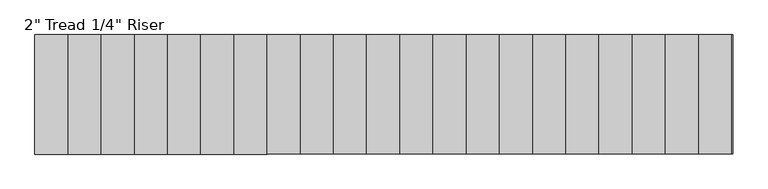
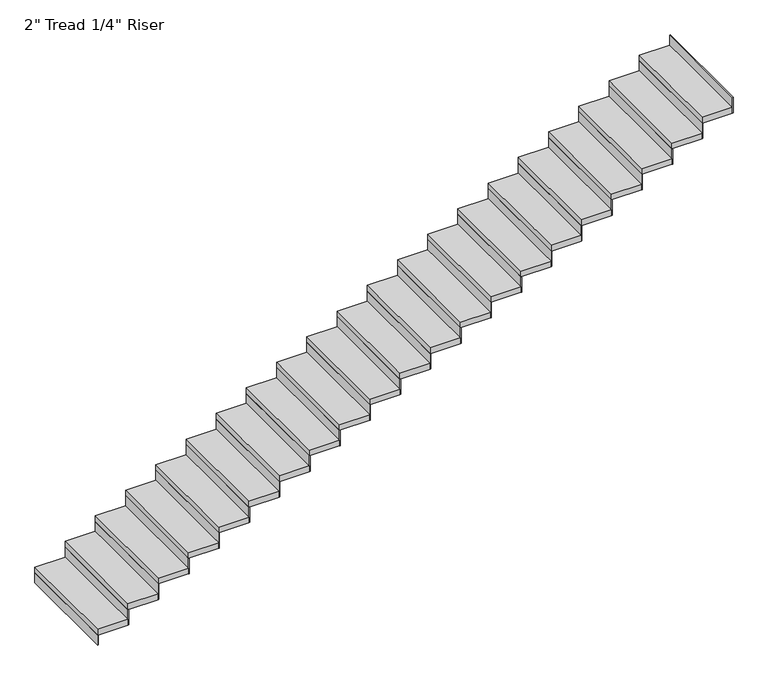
"""IFC4 building model written with IfcOpenShell, lengths in millimetres: stair flight geometry."""

from ifc_helpers import new_model, si_unit, frame, origin, origin_with_axes, place, context, project, spatial, polyline, outline, extrude, source, transform, mapped, element, save


def stair_flight_ce59e505(model_context):
    return source(origin(), model_context, "Body", "SweptSolid", [
        extrude(outline(polyline([(29973.8286682, 6728.764969), (29967.4786682, 6728.764969), (29967.4786682, 7643.164969), (29973.8286682, 7643.164969), (29973.8286682, 6728.764969)])), origin_with_axes(), (0.0, 0.0, 1.0), 87.7454545),
        extrude(outline(polyline([(30221.4786682, 7643.164969), (30221.4786682, 6728.764969), (29967.4786682, 6728.764969), (29967.4786682, 7643.164969), (30221.4786682, 7643.164969)])), frame((0.0, 0.0, 87.7454545), z_axis=(0.0, 0.0, 1.0), x_axis=(1.0, 0.0, 0.0)), (0.0, 0.0, 1.0), 50.8),
        extrude(outline(polyline([(30227.8286682, 6728.764969), (30221.4786682, 6728.764969), (30221.4786682, 7643.164969), (30227.8286682, 7643.164969), (30227.8286682, 6728.764969)])), frame((0.0, 0.0, 87.7454545), z_axis=(0.0, 0.0, 1.0), x_axis=(1.0, 0.0, 0.0)), (0.0, 0.0, 1.0), 138.5454545),
        extrude(outline(polyline([(30475.4786682, 7643.164969), (30475.4786682, 6728.764969), (30221.4786682, 6728.764969), (30221.4786682, 7643.164969), (30475.4786682, 7643.164969)])), frame((0.0, 0.0, 226.2909091), z_axis=(0.0, 0.0, 1.0), x_axis=(1.0, 0.0, 0.0)), (0.0, 0.0, 1.0), 50.8),
        extrude(outline(polyline([(30481.8286682, 6728.764969), (30475.4786682, 6728.764969), (30475.4786682, 7643.164969), (30481.8286682, 7643.164969), (30481.8286682, 6728.764969)])), frame((0.0, 0.0, 226.2909091), z_axis=(0.0, 0.0, 1.0), x_axis=(1.0, 0.0, 0.0)), (0.0, 0.0, 1.0), 138.5454545),
        extrude(outline(polyline([(30729.4786682, 7643.164969), (30729.4786682, 6728.764969), (30475.4786682, 6728.764969), (30475.4786682, 7643.164969), (30729.4786682, 7643.164969)])), frame((0.0, 0.0, 364.8363636), z_axis=(0.0, 0.0, 1.0), x_axis=(1.0, 0.0, 0.0)), (0.0, 0.0, 1.0), 50.8),
        extrude(outline(polyline([(30735.8286682, 6728.764969), (30729.4786682, 6728.764969), (30729.4786682, 7643.164969), (30735.8286682, 7643.164969), (30735.8286682, 6728.764969)])), frame((0.0, 0.0, 364.8363636), z_axis=(0.0, 0.0, 1.0), x_axis=(1.0, 0.0, 0.0)), (0.0, 0.0, 1.0), 138.5454545),
        extrude(outline(polyline([(30983.4786682, 7643.164969), (30983.4786682, 6728.764969), (30729.4786682, 6728.764969), (30729.4786682, 7643.164969), (30983.4786682, 7643.164969)])), frame((0.0, 0.0, 503.3818182), z_axis=(0.0, 0.0, 1.0), x_axis=(1.0, 0.0, 0.0)), (0.0, 0.0, 1.0), 50.8),
        extrude(outline(polyline([(30989.8286682, 6728.764969), (30983.4786682, 6728.764969), (30983.4786682, 7643.164969), (30989.8286682, 7643.164969), (30989.8286682, 6728.764969)])), frame((0.0, 0.0, 503.3818182), z_axis=(0.0, 0.0, 1.0), x_axis=(1.0, 0.0, 0.0)), (0.0, 0.0, 1.0), 138.5454545),
        extrude(outline(polyline([(31237.4786682, 7643.164969), (31237.4786682, 6728.764969), (30983.4786682, 6728.764969), (30983.4786682, 7643.164969), (31237.4786682, 7643.164969)])), frame((0.0, 0.0, 641.9272727), z_axis=(0.0, 0.0, 1.0), x_axis=(1.0, 0.0, 0.0)), (0.0, 0.0, 1.0), 50.8),
        extrude(outline(polyline([(31243.8286682, 6728.764969), (31237.4786682, 6728.764969), (31237.4786682, 7643.164969), (31243.8286682, 7643.164969), (31243.8286682, 6728.764969)])), frame((0.0, 0.0, 641.9272727), z_axis=(0.0, 0.0, 1.0), x_axis=(1.0, 0.0, 0.0)), (0.0, 0.0, 1.0), 138.5454545),
        extrude(outline(polyline([(31491.4786682, 7643.164969), (31491.4786682, 6728.764969), (31237.4786682, 6728.764969), (31237.4786682, 7643.164969), (31491.4786682, 7643.164969)])), frame((0.0, 0.0, 780.4727273), z_axis=(0.0, 0.0, 1.0), x_axis=(1.0, 0.0, 0.0)), (0.0, 0.0, 1.0), 50.8),
        extrude(outline(polyline([(31497.8286682, 6728.764969), (31491.4786682, 6728.764969), (31491.4786682, 7643.164969), (31497.8286682, 7643.164969), (31497.8286682, 6728.764969)])), frame((0.0, 0.0, 780.4727273), z_axis=(0.0, 0.0, 1.0), x_axis=(1.0, 0.0, 0.0)), (0.0, 0.0, 1.0), 138.5454545),
        extrude(outline(polyline([(31745.4786682, 7643.164969), (31745.4786682, 6728.764969), (31491.4786682, 6728.764969), (31491.4786682, 7643.164969), (31745.4786682, 7643.164969)])), frame((0.0, 0.0, 919.0181818), z_axis=(0.0, 0.0, 1.0), x_axis=(1.0, 0.0, 0.0)), (0.0, 0.0, 1.0), 50.8),
        extrude(outline(polyline([(31751.8286682, 6728.764969), (31745.4786682, 6728.764969), (31745.4786682, 7643.164969), (31751.8286682, 7643.164969), (31751.8286682, 6728.764969)])), frame((0.0, 0.0, 919.0181818), z_axis=(0.0, 0.0, 1.0), x_axis=(1.0, 0.0, 0.0)), (0.0, 0.0, 1.0), 138.5454545),
        extrude(outline(polyline([(31999.4786682, 7643.164969), (31999.4786682, 6728.764969), (31745.4786682, 6728.764969), (31745.4786682, 7643.164969), (31999.4786682, 7643.164969)])), frame((0.0, 0.0, 1057.5636364), z_axis=(0.0, 0.0, 1.0), x_axis=(1.0, 0.0, 0.0)), (0.0, 0.0, 1.0), 50.8),
        extrude(outline(polyline([(32005.8286682, 6728.764969), (31999.4786682, 6728.764969), (31999.4786682, 7643.164969), (32005.8286682, 7643.164969), (32005.8286682, 6728.764969)])), frame((0.0, 0.0, 1057.5636364), z_axis=(0.0, 0.0, 1.0), x_axis=(1.0, 0.0, 0.0)), (0.0, 0.0, 1.0), 138.5454545),
        extrude(outline(polyline([(32253.4786682, 7643.164969), (32253.4786682, 6728.764969), (31999.4786682, 6728.764969), (31999.4786682, 7643.164969), (32253.4786682, 7643.164969)])), frame((0.0, 0.0, 1196.1090909), z_axis=(0.0, 0.0, 1.0), x_axis=(1.0, 0.0, 0.0)), (0.0, 0.0, 1.0), 50.8),
        extrude(outline(polyline([(32259.8286682, 6728.764969), (32253.4786682, 6728.764969), (32253.4786682, 7643.164969), (32259.8286682, 7643.164969), (32259.8286682, 6728.764969)])), frame((0.0, 0.0, 1196.1090909), z_axis=(0.0, 0.0, 1.0), x_axis=(1.0, 0.0, 0.0)), (0.0, 0.0, 1.0), 138.5454545),
        extrude(outline(polyline([(32507.4786682, 7643.164969), (32507.4786682, 6728.764969), (32253.4786682, 6728.764969), (32253.4786682, 7643.164969), (32507.4786682, 7643.164969)])), frame((0.0, 0.0, 1334.6545455), z_axis=(0.0, 0.0, 1.0), x_axis=(1.0, 0.0, 0.0)), (0.0, 0.0, 1.0), 50.8),
        extrude(outline(polyline([(32513.8286682, 6728.764969), (32507.4786682, 6728.764969), (32507.4786682, 7643.164969), (32513.8286682, 7643.164969), (32513.8286682, 6728.764969)])), frame((0.0, 0.0, 1334.6545455), z_axis=(0.0, 0.0, 1.0), x_axis=(1.0, 0.0, 0.0)), (0.0, 0.0, 1.0), 138.5454545),
        extrude(outline(polyline([(32761.4786682, 7643.164969), (32761.4786682, 6728.764969), (32507.4786682, 6728.764969), (32507.4786682, 7643.164969), (32761.4786682, 7643.164969)])), frame((0.0, 0.0, 1473.2), z_axis=(0.0, 0.0, 1.0), x_axis=(1.0, 0.0, 0.0)), (0.0, 0.0, 1.0), 50.8),
        extrude(outline(polyline([(32767.8286682, 6728.764969), (32761.4786682, 6728.764969), (32761.4786682, 7643.164969), (32767.8286682, 7643.164969), (32767.8286682, 6728.764969)])), frame((0.0, 0.0, 1473.2), z_axis=(0.0, 0.0, 1.0), x_axis=(1.0, 0.0, 0.0)), (0.0, 0.0, 1.0), 138.5454545),
        extrude(outline(polyline([(33015.4786682, 7643.164969), (33015.4786682, 6728.764969), (32761.4786682, 6728.764969), (32761.4786682, 7643.164969), (33015.4786682, 7643.164969)])), frame((0.0, 0.0, 1611.7454545), z_axis=(0.0, 0.0, 1.0), x_axis=(1.0, 0.0, 0.0)), (0.0, 0.0, 1.0), 50.8),
        extrude(outline(polyline([(33021.8286682, 6728.764969), (33015.4786682, 6728.764969), (33015.4786682, 7643.164969), (33021.8286682, 7643.164969), (33021.8286682, 6728.764969)])), frame((0.0, 0.0, 1611.7454545), z_axis=(0.0, 0.0, 1.0), x_axis=(1.0, 0.0, 0.0)), (0.0, 0.0, 1.0), 138.5454545),
        extrude(outline(polyline([(33269.4786682, 7643.164969), (33269.4786682, 6728.764969), (33015.4786682, 6728.764969), (33015.4786682, 7643.164969), (33269.4786682, 7643.164969)])), frame((0.0, 0.0, 1750.2909091), z_axis=(0.0, 0.0, 1.0), x_axis=(1.0, 0.0, 0.0)), (0.0, 0.0, 1.0), 50.8),
        extrude(outline(polyline([(33275.8286682, 6728.764969), (33269.4786682, 6728.764969), (33269.4786682, 7643.164969), (33275.8286682, 7643.164969), (33275.8286682, 6728.764969)])), frame((0.0, 0.0, 1750.2909091), z_axis=(0.0, 0.0, 1.0), x_axis=(1.0, 0.0, 0.0)), (0.0, 0.0, 1.0), 138.5454545),
        extrude(outline(polyline([(33523.4786682, 7643.164969), (33523.4786682, 6728.764969), (33269.4786682, 6728.764969), (33269.4786682, 7643.164969), (33523.4786682, 7643.164969)])), frame((0.0, 0.0, 1888.8363636), z_axis=(0.0, 0.0, 1.0), x_axis=(1.0, 0.0, 0.0)), (0.0, 0.0, 1.0), 50.8),
        extrude(outline(polyline([(33529.8286682, 6728.764969), (33523.4786682, 6728.764969), (33523.4786682, 7643.164969), (33529.8286682, 7643.164969), (33529.8286682, 6728.764969)])), frame((0.0, 0.0, 1888.8363636), z_axis=(0.0, 0.0, 1.0), x_axis=(1.0, 0.0, 0.0)), (0.0, 0.0, 1.0), 138.5454545),
        extrude(outline(polyline([(33777.4786682, 7643.164969), (33777.4786682, 6728.764969), (33523.4786682, 6728.764969), (33523.4786682, 7643.164969), (33777.4786682, 7643.164969)])), frame((0.0, 0.0, 2027.3818182), z_axis=(0.0, 0.0, 1.0), x_axis=(1.0, 0.0, 0.0)), (0.0, 0.0, 1.0), 50.8),
        extrude(outline(polyline([(33783.8286682, 6728.764969), (33777.4786682, 6728.764969), (33777.4786682, 7643.164969), (33783.8286682, 7643.164969), (33783.8286682, 6728.764969)])), frame((0.0, 0.0, 2027.3818182), z_axis=(0.0, 0.0, 1.0), x_axis=(1.0, 0.0, 0.0)), (0.0, 0.0, 1.0), 138.5454545),
        extrude(outline(polyline([(34031.4786682, 7643.164969), (34031.4786682, 6728.764969), (33777.4786682, 6728.764969), (33777.4786682, 7643.164969), (34031.4786682, 7643.164969)])), frame((0.0, 0.0, 2165.9272727), z_axis=(0.0, 0.0, 1.0), x_axis=(1.0, 0.0, 0.0)), (0.0, 0.0, 1.0), 50.8),
        extrude(outline(polyline([(34037.8286682, 6728.764969), (34031.4786682, 6728.764969), (34031.4786682, 7643.164969), (34037.8286682, 7643.164969), (34037.8286682, 6728.764969)])), frame((0.0, 0.0, 2165.9272727), z_axis=(0.0, 0.0, 1.0), x_axis=(1.0, 0.0, 0.0)), (0.0, 0.0, 1.0), 138.5454545),
        extrude(outline(polyline([(34285.4786682, 7643.164969), (34285.4786682, 6728.764969), (34031.4786682, 6728.764969), (34031.4786682, 7643.164969), (34285.4786682, 7643.164969)])), frame((0.0, 0.0, 2304.4727273), z_axis=(0.0, 0.0, 1.0), x_axis=(1.0, 0.0, 0.0)), (0.0, 0.0, 1.0), 50.8),
        extrude(outline(polyline([(34291.8286682, 6728.764969), (34285.4786682, 6728.764969), (34285.4786682, 7643.164969), (34291.8286682, 7643.164969), (34291.8286682, 6728.764969)])), frame((0.0, 0.0, 2304.4727273), z_axis=(0.0, 0.0, 1.0), x_axis=(1.0, 0.0, 0.0)), (0.0, 0.0, 1.0), 138.5454545),
        extrude(outline(polyline([(34539.4786682, 7643.164969), (34539.4786682, 6728.764969), (34285.4786682, 6728.764969), (34285.4786682, 7643.164969), (34539.4786682, 7643.164969)])), frame((0.0, 0.0, 2443.0181818), z_axis=(0.0, 0.0, 1.0), x_axis=(1.0, 0.0, 0.0)), (0.0, 0.0, 1.0), 50.8),
        extrude(outline(polyline([(34545.8286682, 6728.764969), (34539.4786682, 6728.764969), (34539.4786682, 7643.164969), (34545.8286682, 7643.164969), (34545.8286682, 6728.764969)])), frame((0.0, 0.0, 2443.0181818), z_axis=(0.0, 0.0, 1.0), x_axis=(1.0, 0.0, 0.0)), (0.0, 0.0, 1.0), 138.5454545),
        extrude(outline(polyline([(34793.4786682, 7643.164969), (34793.4786682, 6728.764969), (34539.4786682, 6728.764969), (34539.4786682, 7643.164969), (34793.4786682, 7643.164969)])), frame((0.0, 0.0, 2581.5636364), z_axis=(0.0, 0.0, 1.0), x_axis=(1.0, 0.0, 0.0)), (0.0, 0.0, 1.0), 50.8),
        extrude(outline(polyline([(34799.8286682, 6728.764969), (34793.4786682, 6728.764969), (34793.4786682, 7643.164969), (34799.8286682, 7643.164969), (34799.8286682, 6728.764969)])), frame((0.0, 0.0, 2581.5636364), z_axis=(0.0, 0.0, 1.0), x_axis=(1.0, 0.0, 0.0)), (0.0, 0.0, 1.0), 138.5454545),
        extrude(outline(polyline([(35047.4786682, 7643.164969), (35047.4786682, 6728.764969), (34793.4786682, 6728.764969), (34793.4786682, 7643.164969), (35047.4786682, 7643.164969)])), frame((0.0, 0.0, 2720.1090909), z_axis=(0.0, 0.0, 1.0), x_axis=(1.0, 0.0, 0.0)), (0.0, 0.0, 1.0), 50.8),
        extrude(outline(polyline([(35053.8286682, 6728.764969), (35047.4786682, 6728.764969), (35047.4786682, 7643.164969), (35053.8286682, 7643.164969), (35053.8286682, 6728.764969)])), frame((0.0, 0.0, 2720.1090909), z_axis=(0.0, 0.0, 1.0), x_axis=(1.0, 0.0, 0.0)), (0.0, 0.0, 1.0), 138.5454545),
        extrude(outline(polyline([(35307.8286682, 6728.764969), (35301.4786682, 6728.764969), (35301.4786682, 7643.164969), (35307.8286682, 7643.164969), (35307.8286682, 6728.764969)])), frame((0.0, 0.0, 2858.6545455), z_axis=(0.0, 0.0, 1.0), x_axis=(1.0, 0.0, 0.0)), (0.0, 0.0, 1.0), 138.5454545),
        extrude(outline(polyline([(35301.4786682, 7643.164969), (35301.4786682, 6728.764969), (35047.4786682, 6728.764969), (35047.4786682, 7643.164969), (35301.4786682, 7643.164969)])), frame((0.0, 0.0, 2858.6545455), z_axis=(0.0, 0.0, 1.0), x_axis=(1.0, 0.0, 0.0)), (0.0, 0.0, 1.0), 50.8),
    ])


if __name__ == "__main__":
    model = new_model("IFC4")
    model_context = context("Model", 3, world=origin())
    ifc_project = project(units=[si_unit("LENGTHUNIT", "METRE", prefix="MILLI")], contexts=[model_context])
    site = spatial("IfcSite", under=ifc_project)
    building = spatial("IfcBuilding", under=site)
    placement = place(None, origin())
    stair_flight_shape = stair_flight_ce59e505(model_context)
    element("IfcStairFlight", 1, ObjectType="2\" Tread 1/4\" Riser", at=placement, inside=building, context=model_context, shape_type="MappedRepresentation", body=[
        mapped(stair_flight_shape, transform((0.0, 0.0, 0.0), x_axis=(1.0, 0.0, 0.0), y_axis=(0.0, 1.0, 0.0), z_axis=(0.0, 0.0, 1.0))),
    ])
    save(model, "model.ifc")
